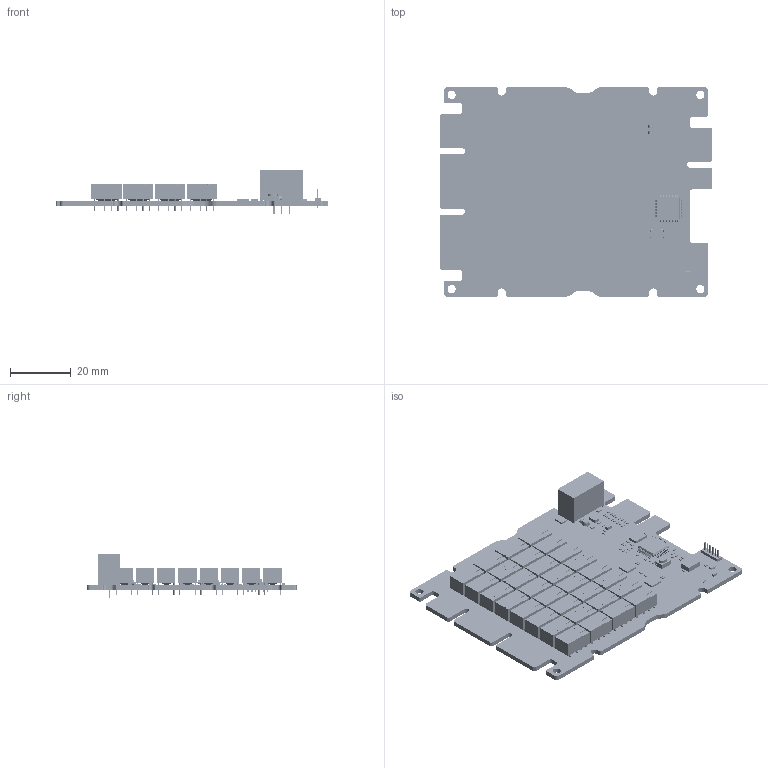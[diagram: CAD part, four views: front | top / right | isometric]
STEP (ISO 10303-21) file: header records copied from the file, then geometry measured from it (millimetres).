
FILE_DESCRIPTION(('Open CASCADE Model'),'2;1');
FILE_NAME('Open CASCADE Shape Model','2026-08-19T15:15:14',('Author'),( 'Open CASCADE'),'Open CASCADE STEP processor 7.5','Open CASCADE 7.5' ,'Unknown');
FILE_SCHEMA(('AUTOMOTIVE_DESIGN { 1 0 10303 214 1 1 1 1 }'));
Length unit declared in the file: millimetre
Products named in the file (237): Open CASCADE STEP translator 7.5 4402; Open CASCADE STEP translator 7.5 4403; Open CASCADE STEP translator 7.5 4404; Open CASCADE STEP translator 7.5 4405; Open CASCADE STEP translator 7.5 4406; Open CASCADE STEP translator 7.5 4407; Open CASCADE STEP translator 7.5 4408; Open CASCADE STEP translator 7.5 4409; Open CASCADE STEP translator 7.5 4410; Open CASCADE STEP translator 7.5 4411; Open CASCADE STEP translator 7.5 4412; Open CASCADE STEP translator 7.5 4413; Open CASCADE STEP translator 7.5 4414; Open CASCADE STEP translator 7.5 4415; Open CASCADE STEP translator 7.5 4416; Open CASCADE STEP translator 7.5 4417; Open CASCADE STEP translator 7.5 4418; Open CASCADE STEP translator 7.5 4419; Open CASCADE STEP translator 7.5 4420; Open CASCADE STEP translator 7.5 4421; Open CASCADE STEP translator 7.5 4422; Open CASCADE STEP translator 7.5 4423; Open CASCADE STEP translator 7.5 4424; Open CASCADE STEP translator 7.5 4425; Open CASCADE STEP translator 7.5 4426; Open CASCADE STEP translator 7.5 4427; Open CASCADE STEP translator 7.5 4428; Open CASCADE STEP translator 7.5 4429; Open CASCADE STEP translator 7.5 4430; Open CASCADE STEP translator 7.5 4431; Open CASCADE STEP translator 7.5 4432; Open CASCADE STEP translator 7.5 4433; Open CASCADE STEP translator 7.5 4434; Open CASCADE STEP translator 7.5 4435; Open CASCADE STEP translator 7.5 4436; Open CASCADE STEP translator 7.5 4437; Open CASCADE STEP translator 7.5 4438; Open CASCADE STEP translator 7.5 4439; Open CASCADE STEP translator 7.5 4440; Open CASCADE STEP translator 7.5 4441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
Bounding box: 90 x 69 x 14.2 mm (x, y, z)
Volume: 20071.4 mm3; surface area: 24838 mm2
Topology: 304 solids, 304 shells, 9630 faces, 24203 edges, 16090 vertices
Faces by surface type: plane 6400, bspline 2052, cylinder 1142, sphere 24, torus 8, cone 4
Full cylindrical faces by diameter (mm): 0.08 x1, 0.289 x1, 0.3 x6, 0.5 x3, 0.6 x6, 0.75 x256, 0.94 x3, 1.4 x1, 1.6 x2, 2.7 x4
Entity records: 468546 total; most frequent: CARTESIAN_POINT 192855, ORIENTED_EDGE 48406, DIRECTION 37542, EDGE_CURVE 24203, LINE 17800, VECTOR 17800, VERTEX_POINT 16090, FACE_BOUND 11077
